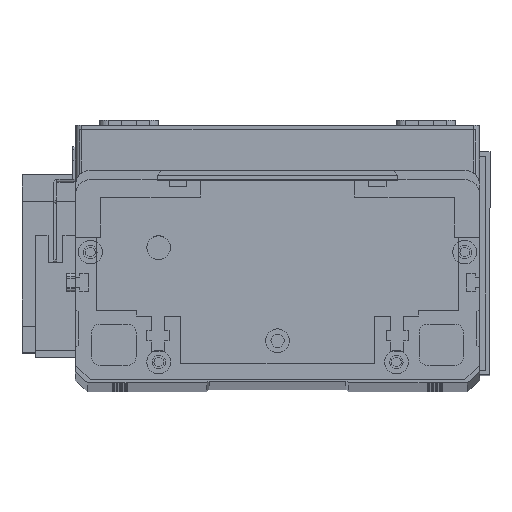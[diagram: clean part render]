
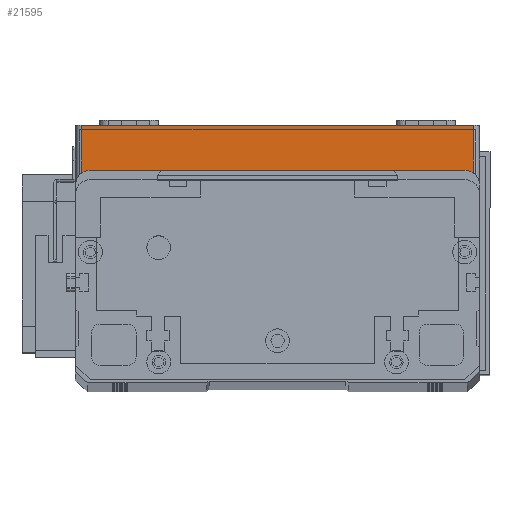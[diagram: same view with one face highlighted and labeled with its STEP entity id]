
A CAD part, top view. The second image highlights one B-rep face of the part: STEP entity #21595.
In plain terms, the highlighted planar face has unit normal (0, 0, 1) as drawn and (0, -1, 0) by its records, which use the part's own axes.
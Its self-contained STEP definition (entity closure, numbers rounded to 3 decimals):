
#122 = FACE_OUTER_BOUND ( 'NONE', #2506, .T. ) ;
#144 = DIRECTION ( 'NONE',  ( 1., 0., 0. ) ) ;
#518 = CARTESIAN_POINT ( 'NONE',  ( 0., 0., 19.5 ) ) ;
#1946 = LINE ( 'NONE', #18788, #12099 ) ;
#2506 = EDGE_LOOP ( 'NONE', ( #13504, #15654, #12022, #22844 ) ) ;
#2881 = DIRECTION ( 'NONE',  ( 0., 0., 1. ) ) ;
#2896 = AXIS2_PLACEMENT_3D ( 'NONE', #518, #16824, #2881 ) ;
#3675 = VERTEX_POINT ( 'NONE', #26180 ) ;
#3956 = DIRECTION ( 'NONE',  ( 1., 0., 0. ) ) ;
#4231 = CARTESIAN_POINT ( 'NONE',  ( 0., 0., 19.5 ) ) ;
#5155 = VERTEX_POINT ( 'NONE', #22973 ) ;
#5952 = VECTOR ( 'NONE', #8442, 1000. ) ;
#7437 = VECTOR ( 'NONE', #3956, 1000. ) ;
#7472 = EDGE_CURVE ( 'NONE', #19593, #3675, #19824, .T. ) ;
#8442 = DIRECTION ( 'NONE',  ( 0., 0., 1. ) ) ;
#8531 = CARTESIAN_POINT ( 'NONE',  ( 134., 0., 19.5 ) ) ;
#11868 = EDGE_CURVE ( 'NONE', #13197, #3675, #19035, .T. ) ;
#12022 = ORIENTED_EDGE ( 'NONE', *, *, #22760, .T. ) ;
#12099 = VECTOR ( 'NONE', #144, 1000. ) ;
#13197 = VERTEX_POINT ( 'NONE', #15150 ) ;
#13504 = ORIENTED_EDGE ( 'NONE', *, *, #7472, .F. ) ;
#14478 = PLANE ( 'NONE',  #2896 ) ;
#15150 = CARTESIAN_POINT ( 'NONE',  ( 134., 0., 0. ) ) ;
#15654 = ORIENTED_EDGE ( 'NONE', *, *, #20513, .T. ) ;
#16238 = VECTOR ( 'NONE', #19375, 1000. ) ;
#16824 = DIRECTION ( 'NONE',  ( 0., 1., 0. ) ) ;
#18788 = CARTESIAN_POINT ( 'NONE',  ( 0., 0., 0. ) ) ;
#19035 = LINE ( 'NONE', #8531, #5952 ) ;
#19375 = DIRECTION ( 'NONE',  ( 0., 0., -1. ) ) ;
#19593 = VERTEX_POINT ( 'NONE', #24218 ) ;
#19824 = LINE ( 'NONE', #4231, #7437 ) ;
#20513 = EDGE_CURVE ( 'NONE', #19593, #5155, #28322, .T. ) ;
#21595 = ADVANCED_FACE ( 'NONE', ( #122 ), #14478, .F. ) ;
#22760 = EDGE_CURVE ( 'NONE', #5155, #13197, #1946, .T. ) ;
#22844 = ORIENTED_EDGE ( 'NONE', *, *, #11868, .T. ) ;
#22973 = CARTESIAN_POINT ( 'NONE',  ( 2., 0., 0. ) ) ;
#24218 = CARTESIAN_POINT ( 'NONE',  ( 2., 0., 19.5 ) ) ;
#26180 = CARTESIAN_POINT ( 'NONE',  ( 134., 0., 19.5 ) ) ;
#28244 = CARTESIAN_POINT ( 'NONE',  ( 2., 0., 19.5 ) ) ;
#28322 = LINE ( 'NONE', #28244, #16238 ) ;
